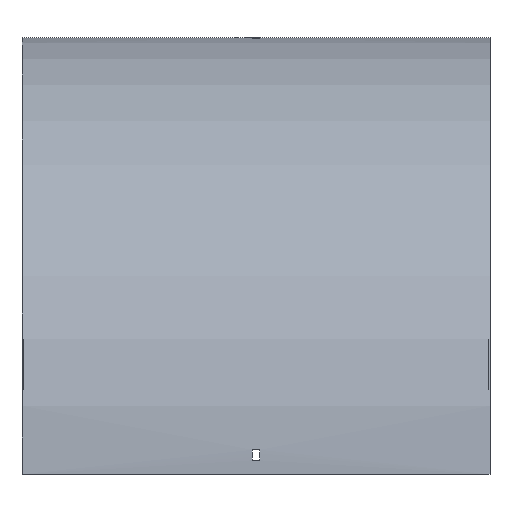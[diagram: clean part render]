
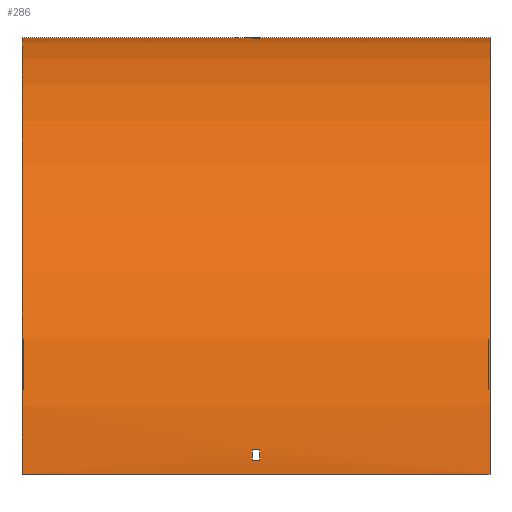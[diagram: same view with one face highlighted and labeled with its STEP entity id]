
A CAD part, top view. The second image highlights one B-rep face of the part: STEP entity #286.
In plain terms, the highlighted cylindrical face has radius 376.5 mm (diameter 753 mm), a partial arc.
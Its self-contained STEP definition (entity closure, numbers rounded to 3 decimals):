
#2 = DIRECTION ( 'NONE',  ( 1., 0., 0. ) ) ;
#7 = CYLINDRICAL_SURFACE ( 'NONE', #206, 376.5 ) ;
#10 = DIRECTION ( 'NONE',  ( -1., 0., 0. ) ) ;
#11 = CARTESIAN_POINT ( 'NONE',  ( -3.25, -364.5, 376.309 ) ) ;
#18 = CARTESIAN_POINT ( 'NONE',  ( 201.5, -364.5, 376.309 ) ) ;
#19 = VERTEX_POINT ( 'NONE', #170 ) ;
#25 = ORIENTED_EDGE ( 'NONE', *, *, #341, .F. ) ;
#38 = CARTESIAN_POINT ( 'NONE',  ( 3.25, -0.191, 12. ) ) ;
#40 = LINE ( 'NONE', #95, #316 ) ;
#42 = CARTESIAN_POINT ( 'NONE',  ( 201.5, -376.5, 0. ) ) ;
#46 = CIRCLE ( 'NONE', #557, 376.5 ) ;
#59 = EDGE_CURVE ( 'NONE', #192, #167, #503, .T. ) ;
#64 = EDGE_CURVE ( 'NONE', #593, #486, #245, .T. ) ;
#73 = ORIENTED_EDGE ( 'NONE', *, *, #76, .T. ) ;
#76 = EDGE_CURVE ( 'NONE', #19, #593, #40, .T. ) ;
#80 = EDGE_CURVE ( 'NONE', #202, #256, #327, .T. ) ;
#86 = VECTOR ( 'NONE', #549, 1000. ) ;
#90 = VECTOR ( 'NONE', #10, 1000. ) ;
#91 = EDGE_CURVE ( 'NONE', #211, #202, #505, .T. ) ;
#93 = DIRECTION ( 'NONE',  ( 0., 0., 1. ) ) ;
#95 = CARTESIAN_POINT ( 'NONE',  ( 201.5, 0., 0. ) ) ;
#97 = EDGE_CURVE ( 'NONE', #19, #154, #46, .T. ) ;
#101 = DIRECTION ( 'NONE',  ( -1., 0., 0. ) ) ;
#105 = EDGE_LOOP ( 'NONE', ( #440, #498, #25, #153 ) ) ;
#109 = ORIENTED_EDGE ( 'NONE', *, *, #240, .F. ) ;
#113 = LINE ( 'NONE', #18, #138 ) ;
#128 = DIRECTION ( 'NONE',  ( 1., 0., 0. ) ) ;
#131 = VECTOR ( 'NONE', #324, 1000. ) ;
#138 = VECTOR ( 'NONE', #165, 1000. ) ;
#140 = CARTESIAN_POINT ( 'NONE',  ( 201.5, -376.5, 376.5 ) ) ;
#146 = DIRECTION ( 'NONE',  ( -1., 0., 0. ) ) ;
#150 = CARTESIAN_POINT ( 'NONE',  ( -3.25, -376.5, 0. ) ) ;
#153 = ORIENTED_EDGE ( 'NONE', *, *, #476, .F. ) ;
#154 = VERTEX_POINT ( 'NONE', #187 ) ;
#157 = ORIENTED_EDGE ( 'NONE', *, *, #97, .F. ) ;
#165 = DIRECTION ( 'NONE',  ( 1., 0., 0. ) ) ;
#167 = VERTEX_POINT ( 'NONE', #462 ) ;
#170 = CARTESIAN_POINT ( 'NONE',  ( 201.5, 0., 0. ) ) ;
#184 = CARTESIAN_POINT ( 'NONE',  ( 201.5, -0.191, 12. ) ) ;
#187 = CARTESIAN_POINT ( 'NONE',  ( 201.5, -376.5, 376.5 ) ) ;
#192 = VERTEX_POINT ( 'NONE', #467 ) ;
#193 = DIRECTION ( 'NONE',  ( -1., 0., 0. ) ) ;
#197 = CARTESIAN_POINT ( 'NONE',  ( 3.25, -0.586, 21. ) ) ;
#198 = ORIENTED_EDGE ( 'NONE', *, *, #64, .T. ) ;
#202 = VERTEX_POINT ( 'NONE', #38 ) ;
#206 = AXIS2_PLACEMENT_3D ( 'NONE', #478, #193, #571 ) ;
#207 = CARTESIAN_POINT ( 'NONE',  ( -3.25, -0.586, 21. ) ) ;
#211 = VERTEX_POINT ( 'NONE', #335 ) ;
#214 = ORIENTED_EDGE ( 'NONE', *, *, #323, .T. ) ;
#240 = EDGE_CURVE ( 'NONE', #154, #486, #380, .T. ) ;
#245 = CIRCLE ( 'NONE', #578, 376.5 ) ;
#247 = ORIENTED_EDGE ( 'NONE', *, *, #91, .T. ) ;
#253 = AXIS2_PLACEMENT_3D ( 'NONE', #560, #331, #93 ) ;
#256 = VERTEX_POINT ( 'NONE', #197 ) ;
#260 = CIRCLE ( 'NONE', #600, 376.5 ) ;
#268 = CARTESIAN_POINT ( 'NONE',  ( 201.5, -355.5, 375.914 ) ) ;
#283 = CARTESIAN_POINT ( 'NONE',  ( 201.5, -0.586, 21. ) ) ;
#285 = CARTESIAN_POINT ( 'NONE',  ( 3.25, -376.5, 0. ) ) ;
#286 = ADVANCED_FACE ( 'NONE', ( #385, #471, #428 ), #7, .T. ) ;
#293 = LINE ( 'NONE', #283, #551 ) ;
#295 = VERTEX_POINT ( 'NONE', #11 ) ;
#303 = EDGE_LOOP ( 'NONE', ( #198, #109, #157, #73 ) ) ;
#316 = VECTOR ( 'NONE', #330, 1000. ) ;
#319 = CARTESIAN_POINT ( 'NONE',  ( -201.5, 0., 0. ) ) ;
#321 = DIRECTION ( 'NONE',  ( 1., 0., 0. ) ) ;
#323 = EDGE_CURVE ( 'NONE', #256, #435, #293, .T. ) ;
#324 = DIRECTION ( 'NONE',  ( 1., 0., 0. ) ) ;
#327 = CIRCLE ( 'NONE', #405, 376.5 ) ;
#329 = DIRECTION ( 'NONE',  ( 0., 0., -1. ) ) ;
#330 = DIRECTION ( 'NONE',  ( -1., 0., 0. ) ) ;
#331 = DIRECTION ( 'NONE',  ( -1., 0., 0. ) ) ;
#335 = CARTESIAN_POINT ( 'NONE',  ( -3.25, -0.191, 12. ) ) ;
#341 = EDGE_CURVE ( 'NONE', #434, #192, #260, .T. ) ;
#365 = EDGE_CURVE ( 'NONE', #167, #295, #419, .T. ) ;
#368 = DIRECTION ( 'NONE',  ( 0., 0., -1. ) ) ;
#376 = DIRECTION ( 'NONE',  ( 0., 0., 1. ) ) ;
#380 = LINE ( 'NONE', #140, #90 ) ;
#385 = FACE_OUTER_BOUND ( 'NONE', #303, .T. ) ;
#388 = DIRECTION ( 'NONE',  ( 0., 1., 0. ) ) ;
#390 = CIRCLE ( 'NONE', #253, 376.5 ) ;
#391 = EDGE_CURVE ( 'NONE', #435, #211, #390, .T. ) ;
#392 = CARTESIAN_POINT ( 'NONE',  ( -201.5, -376.5, 376.5 ) ) ;
#405 = AXIS2_PLACEMENT_3D ( 'NONE', #285, #606, #329 ) ;
#410 = ORIENTED_EDGE ( 'NONE', *, *, #391, .T. ) ;
#419 = CIRCLE ( 'NONE', #492, 376.5 ) ;
#428 = FACE_BOUND ( 'NONE', #105, .T. ) ;
#429 = EDGE_LOOP ( 'NONE', ( #214, #410, #247, #534 ) ) ;
#434 = VERTEX_POINT ( 'NONE', #436 ) ;
#435 = VERTEX_POINT ( 'NONE', #207 ) ;
#436 = CARTESIAN_POINT ( 'NONE',  ( 3.25, -364.5, 376.309 ) ) ;
#440 = ORIENTED_EDGE ( 'NONE', *, *, #365, .F. ) ;
#462 = CARTESIAN_POINT ( 'NONE',  ( -3.25, -355.5, 375.914 ) ) ;
#467 = CARTESIAN_POINT ( 'NONE',  ( 3.25, -355.5, 375.914 ) ) ;
#471 = FACE_BOUND ( 'NONE', #429, .T. ) ;
#476 = EDGE_CURVE ( 'NONE', #295, #434, #113, .T. ) ;
#478 = CARTESIAN_POINT ( 'NONE',  ( 201.5, -376.5, 0. ) ) ;
#486 = VERTEX_POINT ( 'NONE', #392 ) ;
#492 = AXIS2_PLACEMENT_3D ( 'NONE', #150, #2, #388 ) ;
#498 = ORIENTED_EDGE ( 'NONE', *, *, #59, .F. ) ;
#503 = LINE ( 'NONE', #268, #86 ) ;
#505 = LINE ( 'NONE', #184, #131 ) ;
#508 = CARTESIAN_POINT ( 'NONE',  ( -201.5, -376.5, 0. ) ) ;
#520 = DIRECTION ( 'NONE',  ( 0., 0., -1. ) ) ;
#522 = CARTESIAN_POINT ( 'NONE',  ( 3.25, -376.5, 0. ) ) ;
#534 = ORIENTED_EDGE ( 'NONE', *, *, #80, .T. ) ;
#549 = DIRECTION ( 'NONE',  ( -1., 0., 0. ) ) ;
#551 = VECTOR ( 'NONE', #146, 1000. ) ;
#557 = AXIS2_PLACEMENT_3D ( 'NONE', #42, #128, #520 ) ;
#560 = CARTESIAN_POINT ( 'NONE',  ( -3.25, -376.5, 0. ) ) ;
#571 = DIRECTION ( 'NONE',  ( 0., 0., 1. ) ) ;
#578 = AXIS2_PLACEMENT_3D ( 'NONE', #508, #321, #368 ) ;
#593 = VERTEX_POINT ( 'NONE', #319 ) ;
#600 = AXIS2_PLACEMENT_3D ( 'NONE', #522, #101, #376 ) ;
#606 = DIRECTION ( 'NONE',  ( 1., 0., 0. ) ) ;
